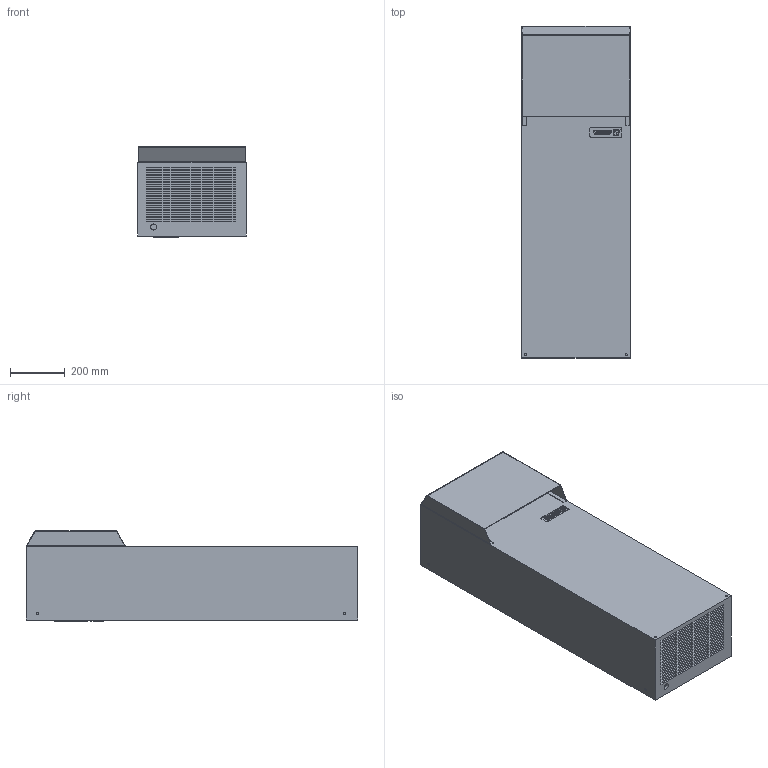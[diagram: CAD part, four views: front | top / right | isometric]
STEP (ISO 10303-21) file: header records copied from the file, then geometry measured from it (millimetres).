
FILE_DESCRIPTION (( 'STEP AP203' ), '1' );
FILE_NAME ('Step DTS3261.STEP', '2009-04-22T12:39:50', ( ' ' ), ( ' ' ), 'SwSTEP 2.0', 'SolidWorks 2008', '' );
FILE_SCHEMA (( 'CONFIG_CONTROL_DESIGN' ));
Products named in the file (1): Step DTS3261
Bounding box: 394.39 x 1210.57 x 329.08 mm (x, y, z)
Volume: 126912674.3 mm3; surface area: 2628075.2 mm2
Topology: 4 solids, 4 shells, 1438 faces, 3587 edges, 2388 vertices
Faces by surface type: plane 1117, bspline 246, cylinder 75
Entity records: 53648 total; most frequent: CARTESIAN_POINT 20668, ORIENTED_EDGE 7174, DIRECTION 5635, EDGE_CURVE 3587, VECTOR 2941, LINE 2941, VERTEX_POINT 2388, EDGE_LOOP 1679
